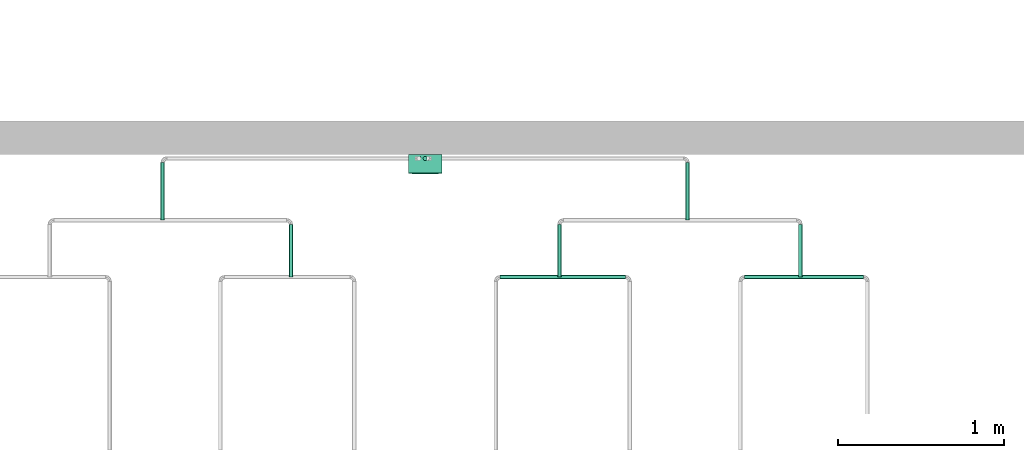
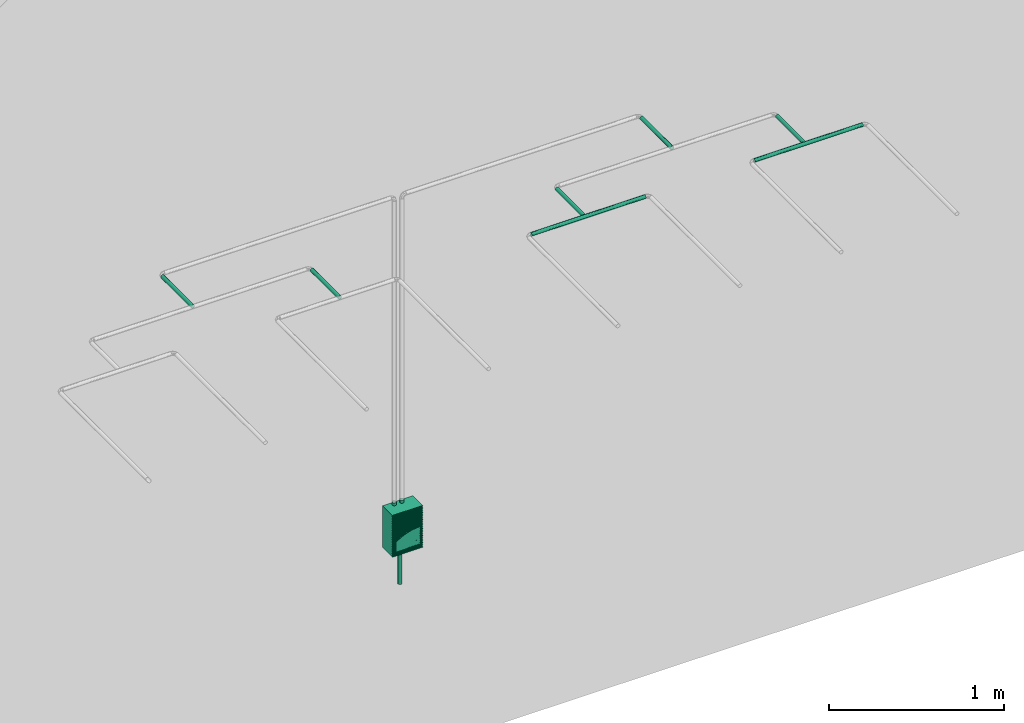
# One storey, part 16 of 197: 8 flow segments, 1 distribution control element.
"""IFC2X3 building model written with IfcOpenShell, lengths in metres."""

from ifc_helpers import new_model, entity, si_unit, converted_unit, direction, frame, frame_2d, origin, origin_2d_with_axis, place, context, subcontext, project, spatial, polyline, circle_curve, parameter, trimmed, segment, composite_curve, circle, hollow_circle, outline, extrude, source, transform, mapped, material, material_list, type_object, type_shapes, element, save


model = new_model("IFC2X3")

# Units and contexts
model_context = context("Model", 3, precision=1e-05, world=origin(), true_north=direction((6.123031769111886e-17, 1.0)))
body_context = subcontext(model_context, "Body", "Model", "MODEL_VIEW")
ifc_project = project(units=[si_unit("LENGTHUNIT", "METRE"), converted_unit("PLANEANGLEUNIT", "DEGREE", entity("IfcPlaneAngleMeasure", 0.017453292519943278), si_unit("PLANEANGLEUNIT", "RADIAN"), dimensions=[0, 0, 0, 0, 0, 0, 0]), si_unit("AREAUNIT", "SQUARE_METRE")], contexts=[model_context])

# Site, building, storey
site_placement = place(None, origin())
site = spatial("IfcSite", under=ifc_project, at=site_placement, Name="Default", CompositionType="ELEMENT")
building_placement = place(site_placement, origin())
building = spatial("IfcBuilding", under=site, at=building_placement, CompositionType="ELEMENT")
storey_placement = place(building_placement, origin())
storey = spatial("IfcBuildingStorey", under=building, at=storey_placement, Name="Niveau 0", CompositionType="ELEMENT", Elevation=0.0)

# Distribution control element
ifc_material_1 = material(Name="A-FINITION BOITIER ASPIRATION")
ifc_material_2 = material(Name="A-VOYANT JAUNE ASPIRATION")
ifc_material_3 = material(Name="A-VOYANT ROUGE ASPIRATION")
ifc_material_4 = material(Name="A-VOYANT VERT ASPIRATION")
ifc_material_list = material_list([ifc_material_1, ifc_material_2, ifc_material_3, ifc_material_4])
alarm_type = type_object("IfcAlarmType", Name="Centrale aspiration:Centrale aspiration", PredefinedType="NOTDEFINED", material=ifc_material_list)
shared_shape = source(origin(), body_context, "Body", "SweptSolid", [
    extrude(hollow_circle(Radius=0.013000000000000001, WallThickness=0.0005000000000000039, at=frame_2d((8.459899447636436e-19, -5.921929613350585e-17), x_axis=(1.0, 0.0))), frame((0.0, -0.023934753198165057, -0.02000000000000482)), (0.0, 0.0, 1.0), 0.02),
    extrude(hollow_circle(Radius=0.013000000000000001, WallThickness=0.0005000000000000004, at=frame_2d((0.0, -2.1149748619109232e-17), x_axis=(1.0, 0.0))), frame((-0.03699999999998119, -0.023934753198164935, 0.29199999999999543)), (0.0, 0.0, 1.0), 0.02000000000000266),
    extrude(hollow_circle(Radius=0.013000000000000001, WallThickness=0.0005000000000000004, at=frame_2d((0.0, -2.1149748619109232e-17), x_axis=(1.0, 0.0))), frame((0.013000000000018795, -0.023934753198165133, 0.29199999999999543)), (0.0, 0.0, 1.0), 0.02000000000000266),
    extrude(circle(Radius=0.0019999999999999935, at=frame_2d((0.0, -8.459899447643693e-18), x_axis=(1.0, 0.0))), frame((0.054395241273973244, -0.11782542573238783, 0.06628531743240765), z_axis=(0.0, 1.0, 0.0), x_axis=(1.0, 0.0, 0.0)), (0.0, 0.0, 1.0), 0.0009999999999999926),
    extrude(circle(Radius=0.0019999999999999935, at=frame_2d((0.0, -1.6919798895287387e-17), x_axis=(1.0, 0.0))), frame((0.05439524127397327, -0.11782542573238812, 0.08228531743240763), z_axis=(0.0, 1.0, 0.0), x_axis=(1.0, 0.0, 0.0)), (0.0, 0.0, 1.0), 0.000999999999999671),
    extrude(circle(Radius=0.0019999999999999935, at=frame_2d((0.0, -1.6919798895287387e-17), x_axis=(1.0, 0.0))), frame((0.054395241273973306, -0.1178254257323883, 0.0982853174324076), z_axis=(0.0, 1.0, 0.0), x_axis=(1.0, 0.0, 0.0)), (0.0, 0.0, 1.0), 0.0009999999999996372),
    extrude(circle(Radius=0.0019999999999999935, at=frame_2d((0.0, -1.6919798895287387e-17), x_axis=(1.0, 0.0))), frame((0.05439524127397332, -0.11782542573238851, 0.11428531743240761), z_axis=(0.0, 1.0, 0.0), x_axis=(1.0, 0.0, 0.0)), (0.0, 0.0, 1.0), 0.000999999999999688),
    extrude(outline(composite_curve([segment(trimmed(circle_curve(frame_2d((0.08093425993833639, 0.1854122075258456), x_axis=(1.0, 0.0)), 0.2591359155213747), [parameter(231.60774087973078)], [parameter(269.7934316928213)], True, "PARAMETER"), True, "CONTINUOUS"), segment(polyline([(0.07999999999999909, -0.07372202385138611), (0.08000000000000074, 0.04570734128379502)]), True, "CONTINUOUS"), segment(polyline([(0.08000000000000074, 0.04570734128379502), (-0.07999999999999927, 0.04570734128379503)]), True, "CONTINUOUS"), segment(polyline([(-0.07999999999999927, 0.04570734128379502), (-0.07999999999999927, -0.01769265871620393)]), True, "CONTINUOUS")], self_intersect=False)), frame((0.0, -0.11682542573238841, 0.08027797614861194), z_axis=(0.0, 1.0, 0.0), x_axis=(1.0, 0.0, 0.0)), (0.0, 0.0, 1.0), 0.00748923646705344),
    extrude(outline(composite_curve([segment(trimmed(circle_curve(frame_2d((0.002435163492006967, -0.14400000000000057), x_axis=(1.0, 0.0)), 0.005035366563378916), [parameter(336.59733691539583)], [parameter(52.596837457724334)], True, "PARAMETER"), True, "CONTINUOUS"), segment(trimmed(circle_curve(frame_2d((0.008552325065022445, -0.1360000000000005), x_axis=(-1.0, 0.0)), 0.005035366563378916), [parameter(307.4031625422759)], [parameter(52.59683745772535)], True, "PARAMETER"), False, "CONTINUOUS"), segment(trimmed(circle_curve(frame_2d((0.0024351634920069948, -0.1280000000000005), x_axis=(1.0, 0.0)), 0.005035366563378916), [parameter(307.4031625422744)], [parameter(52.59683745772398)], True, "PARAMETER"), True, "CONTINUOUS"), segment(trimmed(circle_curve(frame_2d((0.008552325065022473, -0.12000000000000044), x_axis=(-1.0, 0.0)), 0.005035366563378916), [parameter(307.4031625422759)], [parameter(52.59683745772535)], True, "PARAMETER"), False, "CONTINUOUS"), segment(trimmed(circle_curve(frame_2d((0.0024351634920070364, -0.11200000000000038), x_axis=(1.0, 0.0)), 0.005035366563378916), [parameter(307.4031625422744)], [parameter(52.59683745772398)], True, "PARAMETER"), True, "CONTINUOUS"), segment(trimmed(circle_curve(frame_2d((0.008552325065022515, -0.10400000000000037), x_axis=(-1.0, 0.0)), 0.005035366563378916), [parameter(307.4031625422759)], [parameter(52.59683745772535)], True, "PARAMETER"), False, "CONTINUOUS"), segment(trimmed(circle_curve(frame_2d((0.002435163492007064, -0.09600000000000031), x_axis=(1.0, 0.0)), 0.005035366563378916), [parameter(307.4031625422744)], [parameter(52.59683745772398)], True, "PARAMETER"), True, "CONTINUOUS"), segment(trimmed(circle_curve(frame_2d((0.008552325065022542, -0.08800000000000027), x_axis=(-1.0, 0.0)), 0.005035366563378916), [parameter(307.4031625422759)], [parameter(52.59683745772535)], True, "PARAMETER"), False, "CONTINUOUS"), segment(trimmed(circle_curve(frame_2d((0.002435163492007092, -0.08000000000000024), x_axis=(1.0, 0.0)), 0.005035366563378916), [parameter(307.4031625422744)], [parameter(52.59683745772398)], True, "PARAMETER"), True, "CONTINUOUS"), segment(trimmed(circle_curve(frame_2d((0.008552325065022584, -0.0720000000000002), x_axis=(-1.0, 0.0)), 0.005035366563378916), [parameter(307.40316254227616)], [parameter(52.59683745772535)], True, "PARAMETER"), False, "CONTINUOUS"), segment(trimmed(circle_curve(frame_2d((0.0024351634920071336, -0.06400000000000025), x_axis=(1.0, 0.0)), 0.005035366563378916), [parameter(307.40316254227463)], [parameter(52.59683745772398)], True, "PARAMETER"), True, "CONTINUOUS"), segment(trimmed(circle_curve(frame_2d((0.008552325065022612, -0.056000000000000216), x_axis=(-1.0, 0.0)), 0.005035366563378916), [parameter(307.4031625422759)], [parameter(52.59683745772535)], True, "PARAMETER"), False, "CONTINUOUS"), segment(trimmed(circle_curve(frame_2d((0.0024351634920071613, -0.048000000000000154), x_axis=(1.0, 0.0)), 0.005035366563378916), [parameter(307.4031625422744)], [parameter(52.59683745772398)], True, "PARAMETER"), True, "CONTINUOUS"), segment(trimmed(circle_curve(frame_2d((0.00855232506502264, -0.04000000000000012), x_axis=(-1.0, 0.0)), 0.005035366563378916), [parameter(307.4031625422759)], [parameter(52.59683745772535)], True, "PARAMETER"), False, "CONTINUOUS"), segment(trimmed(circle_curve(frame_2d((0.002435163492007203, -0.032000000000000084), x_axis=(1.0, 0.0)), 0.005035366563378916), [parameter(307.4031625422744)], [parameter(52.59683745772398)], True, "PARAMETER"), True, "CONTINUOUS"), segment(trimmed(circle_curve(frame_2d((0.008552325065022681, -0.02400000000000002), x_axis=(-1.0, 0.0)), 0.005035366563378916), [parameter(307.4031625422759)], [parameter(52.59683745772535)], True, "PARAMETER"), False, "CONTINUOUS"), segment(trimmed(circle_curve(frame_2d((0.0024351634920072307, -0.015999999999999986), x_axis=(1.0, 0.0)), 0.005035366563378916), [parameter(307.4031625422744)], [parameter(52.59683745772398)], True, "PARAMETER"), True, "CONTINUOUS"), segment(trimmed(circle_curve(frame_2d((0.008552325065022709, -0.007999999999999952), x_axis=(-1.0, 0.0)), 0.005035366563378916), [parameter(307.40316254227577)], [parameter(52.59683745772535)], True, "PARAMETER"), False, "CONTINUOUS"), segment(trimmed(circle_curve(frame_2d((0.0024351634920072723, 0.0), x_axis=(1.0, 0.0)), 0.005035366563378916), [parameter(307.40316254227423)], [parameter(52.59683745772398)], True, "PARAMETER"), True, "CONTINUOUS"), segment(trimmed(circle_curve(frame_2d((0.00855232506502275, 0.008000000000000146), x_axis=(-1.0, 0.0)), 0.005035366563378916), [parameter(307.40316254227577)], [parameter(52.59683745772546)], True, "PARAMETER"), False, "CONTINUOUS"), segment(trimmed(circle_curve(frame_2d((0.0024351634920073, 0.01600000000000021), x_axis=(1.0, 0.0)), 0.005035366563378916), [parameter(307.4031625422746)], [parameter(52.59683745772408)], True, "PARAMETER"), True, "CONTINUOUS"), segment(trimmed(circle_curve(frame_2d((0.008552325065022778, 0.024000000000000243), x_axis=(-1.0, 0.0)), 0.005035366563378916), [parameter(307.40316254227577)], [parameter(52.59683745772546)], True, "PARAMETER"), False, "CONTINUOUS"), segment(trimmed(circle_curve(frame_2d((0.0024351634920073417, 0.03200000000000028), x_axis=(1.0, 0.0)), 0.005035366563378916), [parameter(307.4031625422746)], [parameter(52.59683745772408)], True, "PARAMETER"), True, "CONTINUOUS"), segment(trimmed(circle_curve(frame_2d((0.00855232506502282, 0.04000000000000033), x_axis=(-1.0, 0.0)), 0.005035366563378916), [parameter(307.40316254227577)], [parameter(52.59683745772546)], True, "PARAMETER"), False, "CONTINUOUS"), segment(trimmed(circle_curve(frame_2d((0.0024351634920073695, 0.04800000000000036), x_axis=(1.0, 0.0)), 0.005035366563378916), [parameter(307.4031625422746)], [parameter(52.59683745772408)], True, "PARAMETER"), True, "CONTINUOUS"), segment(trimmed(circle_curve(frame_2d((0.008552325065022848, 0.05600000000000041), x_axis=(-1.0, 0.0)), 0.005035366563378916), [parameter(307.40316254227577)], [parameter(52.59683745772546)], True, "PARAMETER"), False, "CONTINUOUS"), segment(trimmed(circle_curve(frame_2d((0.0024351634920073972, 0.06400000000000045), x_axis=(1.0, 0.0)), 0.005035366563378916), [parameter(307.4031625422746)], [parameter(52.59683745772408)], True, "PARAMETER"), True, "CONTINUOUS"), segment(trimmed(circle_curve(frame_2d((0.00855232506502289, 0.0720000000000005), x_axis=(-1.0, 0.0)), 0.005035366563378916), [parameter(307.40316254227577)], [parameter(52.59683745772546)], True, "PARAMETER"), False, "CONTINUOUS"), segment(trimmed(circle_curve(frame_2d((0.002435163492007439, 0.08000000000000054), x_axis=(1.0, 0.0)), 0.005035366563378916), [parameter(307.4031625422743)], [parameter(52.59683745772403)], True, "PARAMETER"), True, "CONTINUOUS"), segment(trimmed(circle_curve(frame_2d((0.008552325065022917, 0.08800000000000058), x_axis=(-1.0, 0.0)), 0.005035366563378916), [parameter(307.4031625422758)], [parameter(52.596837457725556)], True, "PARAMETER"), False, "CONTINUOUS"), segment(trimmed(circle_curve(frame_2d((0.0024351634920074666, 0.09600000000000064), x_axis=(1.0, 0.0)), 0.005035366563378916), [parameter(307.40316254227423)], [parameter(52.59683745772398)], True, "PARAMETER"), True, "CONTINUOUS"), segment(trimmed(circle_curve(frame_2d((0.008552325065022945, 0.10400000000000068), x_axis=(-1.0, 0.0)), 0.005035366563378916), [parameter(307.40316254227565)], [parameter(52.596837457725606)], True, "PARAMETER"), False, "CONTINUOUS"), segment(trimmed(circle_curve(frame_2d((0.0024351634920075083, 0.11200000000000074), x_axis=(1.0, 0.0)), 0.005035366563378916), [parameter(307.40316254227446)], [parameter(52.59683745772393)], True, "PARAMETER"), True, "CONTINUOUS"), segment(trimmed(circle_curve(frame_2d((0.008552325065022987, 0.12000000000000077), x_axis=(-1.0, 0.0)), 0.005035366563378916), [parameter(307.4031625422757)], [parameter(52.59683745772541)], True, "PARAMETER"), False, "CONTINUOUS"), segment(trimmed(circle_curve(frame_2d((0.002435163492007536, 0.12800000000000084), x_axis=(1.0, 0.0)), 0.005035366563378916), [parameter(307.4031625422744)], [parameter(52.59683745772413)], True, "PARAMETER"), True, "CONTINUOUS"), segment(trimmed(circle_curve(frame_2d((0.008552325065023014, 0.13600000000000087), x_axis=(-1.0, 0.0)), 0.005035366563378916), [parameter(307.40316254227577)], [parameter(52.59683745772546)], True, "PARAMETER"), False, "CONTINUOUS"), segment(trimmed(circle_curve(frame_2d((0.0024351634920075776, 0.1440000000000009), x_axis=(1.0, 0.0)), 0.005035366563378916), [parameter(307.40316254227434)], [parameter(23.402663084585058)], True, "PARAMETER"), True, "CONTINUOUS"), segment(polyline([(0.0070563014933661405, 0.14599999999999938), (-0.10594369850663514, 0.14599999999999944)]), True, "CONTINUOUS"), segment(polyline([(-0.10594369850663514, 0.14599999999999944), (-0.10594369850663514, -0.14600000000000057)]), True, "CONTINUOUS"), segment(polyline([(-0.10594369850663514, -0.14600000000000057), (0.0070563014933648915, -0.14600000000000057)]), True, "CONTINUOUS")], self_intersect=False)), frame((-0.09999999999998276, -0.10594369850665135, 0.14599999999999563), z_axis=(1.0, 0.0, 0.0), x_axis=(0.0, -1.0, 0.0)), (0.0, 0.0, 1.0), 0.2),
])
type_shapes(alarm_type, [shared_shape])
distribution_control_element_placement = place(storey_placement, frame((-504.84859512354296, -24.636644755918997, 1.4999999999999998)))
element("IfcDistributionControlElement", 1, at=distribution_control_element_placement, inside=storey, type_object=alarm_type, material=ifc_material_list, Name="Centrale aspiration:Centrale aspiration", ObjectType="Centrale aspiration:Centrale aspiration", context=body_context, shape_type="MappedRepresentation", body=[
    mapped(shared_shape, transform((0.0, 0.0, 0.0), scale=1.0)),
])

# Flow segments
duct_segment_type_1 = type_object("IfcDuctSegmentType", Name="Gaine circulaire:Tubulure-Retour air", PredefinedType="NOTDEFINED")
flow_segment_1_placement = place(storey_placement, origin())
element("IfcFlowSegment", 2, at=flow_segment_1_placement, inside=storey, type_object=duct_segment_type_1, Name="Gaine circulaire:Tubulure-Retour air", ObjectType="Gaine circulaire:Tubulure-Retour air", context=body_context, shape_type="SweptSolid", body=[
    extrude(circle(Radius=0.0125, at=frame_2d((-1.317891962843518e-29, 4.331468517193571e-15), x_axis=(1.0, 0.0))), frame((-504.84859512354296, -24.660579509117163, 1.2299999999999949), z_axis=(0.0, 0.0, 1.0), x_axis=(-1.0, 0.0, 0.0)), (0.0, 0.0, 1.0), 0.25),
])
duct_segment_type_2 = type_object("IfcDuctSegmentType", Name="Gaine circulaire:Tubulure-Aspiration", PredefinedType="NOTDEFINED")
flow_segment_2_placement = place(storey_placement, origin())
element("IfcFlowSegment", 3, at=flow_segment_2_placement, inside=storey, type_object=duct_segment_type_2, Name="Gaine circulaire:Tubulure-Aspiration", ObjectType="Gaine circulaire:Tubulure-Aspiration", context=body_context, shape_type="SweptSolid", body=[
    extrude(circle(Radius=0.0125, at=frame_2d((0.0, -5.414335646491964e-16), x_axis=(1.0, 0.0))), frame((-506.4275951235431, -25.032579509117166, 3.936999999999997), z_axis=(0.0, 1.0, 0.0), x_axis=(-1.0, 0.0, 0.0)), (0.0, 0.0, 1.0), 0.3470000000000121),
])
flow_segment_3_placement = place(storey_placement, origin())
element("IfcFlowSegment", 4, at=flow_segment_3_placement, inside=storey, type_object=duct_segment_type_2, Name="Gaine circulaire:Tubulure-Aspiration", ObjectType="Gaine circulaire:Tubulure-Aspiration", context=body_context, shape_type="SweptSolid", body=[
    extrude(circle(Radius=0.0125, at=origin_2d_with_axis()), frame((-505.65612260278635, -25.37457950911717, 3.9369999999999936), z_axis=(0.0, 1.0, 0.0), x_axis=(-1.0, 0.0, 0.0)), (0.0, 0.0, 1.0), 0.3170000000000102),
])
flow_segment_4_placement = place(storey_placement, origin())
element("IfcFlowSegment", 5, at=flow_segment_4_placement, inside=storey, type_object=duct_segment_type_2, Name="Gaine circulaire:Tubulure-Aspiration", ObjectType="Gaine circulaire:Tubulure-Aspiration", context=body_context, shape_type="SweptSolid", body=[
    extrude(circle(Radius=0.0125, at=frame_2d((0.0, -5.414335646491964e-16), x_axis=(1.0, 0.0))), frame((-503.2695951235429, -25.032579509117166, 3.9370000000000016), z_axis=(0.0, 1.0, 0.0), x_axis=(-1.0, 0.0, 0.0)), (0.0, 0.0, 1.0), 0.34699999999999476),
])
flow_segment_5_placement = place(storey_placement, origin())
element("IfcFlowSegment", 6, at=flow_segment_5_placement, inside=storey, type_object=duct_segment_type_2, Name="Gaine circulaire:Tubulure-Aspiration", ObjectType="Gaine circulaire:Tubulure-Aspiration", context=body_context, shape_type="SweptSolid", body=[
    extrude(circle(Radius=0.0125, at=frame_2d((0.0, -5.414335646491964e-16), x_axis=(1.0, 0.0))), frame((-502.5900676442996, -25.374579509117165, 3.936999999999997), z_axis=(0.0, 1.0, 0.0), x_axis=(-1.0, 0.0, 0.0)), (0.0, 0.0, 1.0), 0.3170000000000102),
])
flow_segment_6_placement = place(storey_placement, origin())
element("IfcFlowSegment", 7, at=flow_segment_6_placement, inside=storey, type_object=duct_segment_type_2, Name="Gaine circulaire:Tubulure-Aspiration", ObjectType="Gaine circulaire:Tubulure-Aspiration", context=body_context, shape_type="SweptSolid", body=[
    extrude(circle(Radius=0.0125, at=frame_2d((0.0, -5.414335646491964e-16), x_axis=(1.0, 0.0))), frame((-502.92602857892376, -25.374579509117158, 3.936999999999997), z_axis=(1.0, 0.0, 0.0), x_axis=(0.0, 1.0, 0.0)), (0.0, 0.0, 1.0), 0.714000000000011),
])
flow_segment_7_placement = place(storey_placement, origin())
element("IfcFlowSegment", 8, at=flow_segment_7_placement, inside=storey, type_object=duct_segment_type_2, Name="Gaine circulaire:Tubulure-Aspiration", ObjectType="Gaine circulaire:Tubulure-Aspiration", context=body_context, shape_type="SweptSolid", body=[
    extrude(circle(Radius=0.0125, at=origin_2d_with_axis()), frame((-504.04106764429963, -25.37457950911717, 3.9369999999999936), z_axis=(0.0, 1.0, 0.0), x_axis=(-1.0, 0.0, 0.0)), (0.0, 0.0, 1.0), 0.3170000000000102),
])
flow_segment_8_placement = place(storey_placement, origin())
element("IfcFlowSegment", 9, at=flow_segment_8_placement, inside=storey, type_object=duct_segment_type_2, Name="Gaine circulaire:Tubulure-Aspiration", ObjectType="Gaine circulaire:Tubulure-Aspiration", context=body_context, shape_type="SweptSolid", body=[
    extrude(circle(Radius=0.0125, at=frame_2d((0.0, -5.414335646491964e-16), x_axis=(1.0, 0.0))), frame((-504.39702857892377, -25.37457950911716, 3.936999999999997), z_axis=(1.0, 0.0, 0.0), x_axis=(0.0, 1.0, 0.0)), (0.0, 0.0, 1.0), 0.7540000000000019),
])

save(model, "model.ifc")
